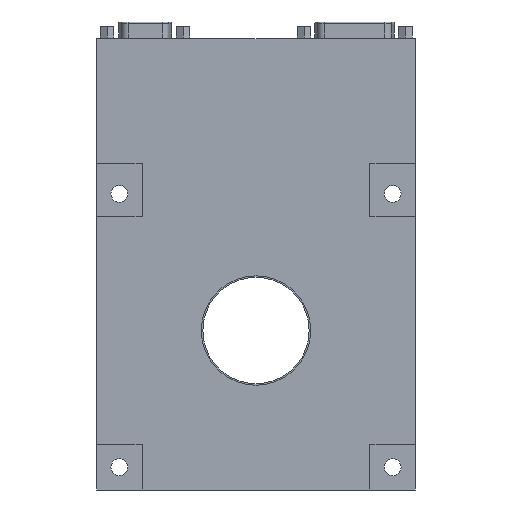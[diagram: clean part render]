
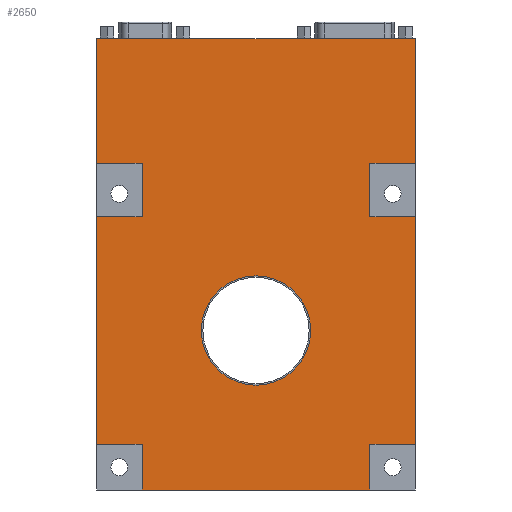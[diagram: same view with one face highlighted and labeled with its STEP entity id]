
A CAD part, front view. The second image highlights one B-rep face of the part: STEP entity #2650.
In plain terms, the highlighted planar face has unit normal (0, -1, 0).
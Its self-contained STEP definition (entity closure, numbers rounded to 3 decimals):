
#601=DIRECTION('',(0.,0.,1.));
#602=VECTOR('',#601,75.);
#603=CARTESIAN_POINT('',(-52.5,-14.,-37.5));
#604=LINE('',#603,#602);
#664=DIRECTION('',(0.,0.,1.));
#665=VECTOR('',#664,41.);
#666=CARTESIAN_POINT('',(-52.5,-14.,55.));
#667=LINE('',#666,#665);
#685=DIRECTION('',(-1.,0.,0.));
#686=VECTOR('',#685,15.);
#687=CARTESIAN_POINT('',(-37.5,-14.,37.5));
#688=LINE('',#687,#686);
#692=DIRECTION('',(0.,0.,-1.));
#693=VECTOR('',#692,17.5);
#694=CARTESIAN_POINT('',(-37.5,-14.,55.));
#695=LINE('',#694,#693);
#699=DIRECTION('',(1.,0.,0.));
#700=VECTOR('',#699,15.);
#701=CARTESIAN_POINT('',(-52.5,-14.,55.));
#702=LINE('',#701,#700);
#706=DIRECTION('',(1.,0.,0.));
#707=VECTOR('',#706,15.);
#708=CARTESIAN_POINT('',(37.5,-14.,55.));
#709=LINE('',#708,#707);
#713=DIRECTION('',(0.,0.,1.));
#714=VECTOR('',#713,17.5);
#715=CARTESIAN_POINT('',(37.5,-14.,37.5));
#716=LINE('',#715,#714);
#720=DIRECTION('',(-1.,0.,0.));
#721=VECTOR('',#720,15.);
#722=CARTESIAN_POINT('',(52.5,-14.,37.5));
#723=LINE('',#722,#721);
#727=DIRECTION('',(1.,0.,0.));
#728=VECTOR('',#727,15.);
#729=CARTESIAN_POINT('',(37.5,-14.,-37.5));
#730=LINE('',#729,#728);
#734=DIRECTION('',(0.,0.,1.));
#735=VECTOR('',#734,15.);
#736=CARTESIAN_POINT('',(37.5,-14.,-52.5));
#737=LINE('',#736,#735);
#741=DIRECTION('',(0.,0.,-1.));
#742=VECTOR('',#741,15.);
#743=CARTESIAN_POINT('',(-37.5,-14.,-37.5));
#744=LINE('',#743,#742);
#748=DIRECTION('',(1.,0.,0.));
#749=VECTOR('',#748,15.);
#750=CARTESIAN_POINT('',(-52.5,-14.,-37.5));
#751=LINE('',#750,#749);
#790=DIRECTION('',(1.,0.,0.));
#791=VECTOR('',#790,105.);
#792=CARTESIAN_POINT('',(-52.5,-14.,96.));
#793=LINE('',#792,#791);
#1258=DIRECTION('',(0.,0.,-1.));
#1259=VECTOR('',#1258,41.);
#1260=CARTESIAN_POINT('',(52.5,-14.,96.));
#1261=LINE('',#1260,#1259);
#1328=DIRECTION('',(0.,0.,-1.));
#1329=VECTOR('',#1328,75.);
#1330=CARTESIAN_POINT('',(52.5,-14.,37.5));
#1331=LINE('',#1330,#1329);
#1603=DIRECTION('',(-1.,0.,0.));
#1604=VECTOR('',#1603,75.);
#1605=CARTESIAN_POINT('',(37.5,-14.,-52.5));
#1606=LINE('',#1605,#1604);
#1681=CARTESIAN_POINT('',(0.,-14.,0.));
#1682=DIRECTION('',(0.,1.,0.));
#1683=DIRECTION('',(1.,0.,0.));
#1684=AXIS2_PLACEMENT_3D('',#1681,#1682,#1683);
#1734=CARTESIAN_POINT('',(0.,-14.,0.));
#1735=DIRECTION('',(0.,1.,0.));
#1736=DIRECTION('',(-1.,0.,0.));
#1737=AXIS2_PLACEMENT_3D('',#1734,#1735,#1736);
#2251=CARTESIAN_POINT('',(-37.5,-14.,55.));
#2252=CARTESIAN_POINT('',(-37.5,-14.,37.5));
#2253=VERTEX_POINT('',#2251);
#2254=VERTEX_POINT('',#2252);
#2255=CARTESIAN_POINT('',(37.5,-14.,37.5));
#2256=CARTESIAN_POINT('',(37.5,-14.,55.));
#2257=VERTEX_POINT('',#2255);
#2258=VERTEX_POINT('',#2256);
#2287=CARTESIAN_POINT('',(-52.5,-14.,-37.5));
#2288=CARTESIAN_POINT('',(-52.5,-14.,37.5));
#2289=VERTEX_POINT('',#2287);
#2290=VERTEX_POINT('',#2288);
#2291=CARTESIAN_POINT('',(-52.5,-14.,55.));
#2292=CARTESIAN_POINT('',(-52.5,-14.,96.));
#2293=VERTEX_POINT('',#2291);
#2294=VERTEX_POINT('',#2292);
#2295=CARTESIAN_POINT('',(52.5,-14.,96.));
#2296=VERTEX_POINT('',#2295);
#2297=CARTESIAN_POINT('',(52.5,-14.,55.));
#2298=VERTEX_POINT('',#2297);
#2299=CARTESIAN_POINT('',(52.5,-14.,37.5));
#2300=CARTESIAN_POINT('',(52.5,-14.,-37.5));
#2301=VERTEX_POINT('',#2299);
#2302=VERTEX_POINT('',#2300);
#2303=CARTESIAN_POINT('',(37.5,-14.,-52.5));
#2304=CARTESIAN_POINT('',(-37.5,-14.,-52.5));
#2305=VERTEX_POINT('',#2303);
#2306=VERTEX_POINT('',#2304);
#2307=CARTESIAN_POINT('',(18.,-14.,0.));
#2308=CARTESIAN_POINT('',(-18.,-14.,0.));
#2309=VERTEX_POINT('',#2307);
#2310=VERTEX_POINT('',#2308);
#2311=CARTESIAN_POINT('',(37.5,-14.,-37.5));
#2312=VERTEX_POINT('',#2311);
#2313=CARTESIAN_POINT('',(-37.5,-14.,-37.5));
#2314=VERTEX_POINT('',#2313);
#2607=CARTESIAN_POINT('',(0.,-14.,0.));
#2608=DIRECTION('',(0.,-1.,0.));
#2609=DIRECTION('',(0.,0.,-1.));
#2610=AXIS2_PLACEMENT_3D('',#2607,#2608,#2609);
#2611=PLANE('',#2610);
#2612=ORIENTED_EDGE('',*,*,#2575,.T.);
#2614=ORIENTED_EDGE('',*,*,#2613,.F.);
#2616=ORIENTED_EDGE('',*,*,#2615,.F.);
#2618=ORIENTED_EDGE('',*,*,#2617,.F.);
#2619=ORIENTED_EDGE('',*,*,#2597,.T.);
#2621=ORIENTED_EDGE('',*,*,#2620,.T.);
#2623=ORIENTED_EDGE('',*,*,#2622,.T.);
#2625=ORIENTED_EDGE('',*,*,#2624,.F.);
#2627=ORIENTED_EDGE('',*,*,#2626,.F.);
#2629=ORIENTED_EDGE('',*,*,#2628,.F.);
#2631=ORIENTED_EDGE('',*,*,#2630,.T.);
#2633=ORIENTED_EDGE('',*,*,#2632,.F.);
#2635=ORIENTED_EDGE('',*,*,#2634,.F.);
#2637=ORIENTED_EDGE('',*,*,#2636,.T.);
#2639=ORIENTED_EDGE('',*,*,#2638,.F.);
#2641=ORIENTED_EDGE('',*,*,#2640,.F.);
#2642=EDGE_LOOP('',(#2612,#2614,#2616,#2618,#2619,#2621,#2623,#2625,#2627,#2629,
#2631,#2633,#2635,#2637,#2639,#2641));
#2643=FACE_OUTER_BOUND('',#2642,.F.);
#2645=ORIENTED_EDGE('',*,*,#2644,.F.);
#2647=ORIENTED_EDGE('',*,*,#2646,.F.);
#2648=EDGE_LOOP('',(#2645,#2647));
#2649=FACE_BOUND('',#2648,.F.);
#1685=CIRCLE('',#1684,18.);
#1738=CIRCLE('',#1737,18.);
#2575=EDGE_CURVE('',#2289,#2290,#604,.T.);
#2597=EDGE_CURVE('',#2293,#2294,#667,.T.);
#2613=EDGE_CURVE('',#2254,#2290,#688,.T.);
#2615=EDGE_CURVE('',#2253,#2254,#695,.T.);
#2617=EDGE_CURVE('',#2293,#2253,#702,.T.);
#2620=EDGE_CURVE('',#2294,#2296,#793,.T.);
#2622=EDGE_CURVE('',#2296,#2298,#1261,.T.);
#2624=EDGE_CURVE('',#2258,#2298,#709,.T.);
#2626=EDGE_CURVE('',#2257,#2258,#716,.T.);
#2628=EDGE_CURVE('',#2301,#2257,#723,.T.);
#2630=EDGE_CURVE('',#2301,#2302,#1331,.T.);
#2632=EDGE_CURVE('',#2312,#2302,#730,.T.);
#2634=EDGE_CURVE('',#2305,#2312,#737,.T.);
#2636=EDGE_CURVE('',#2305,#2306,#1606,.T.);
#2638=EDGE_CURVE('',#2314,#2306,#744,.T.);
#2640=EDGE_CURVE('',#2289,#2314,#751,.T.);
#2644=EDGE_CURVE('',#2309,#2310,#1685,.T.);
#2646=EDGE_CURVE('',#2310,#2309,#1738,.T.);
#2650=ADVANCED_FACE('',(#2643,#2649),#2611,.T.);
